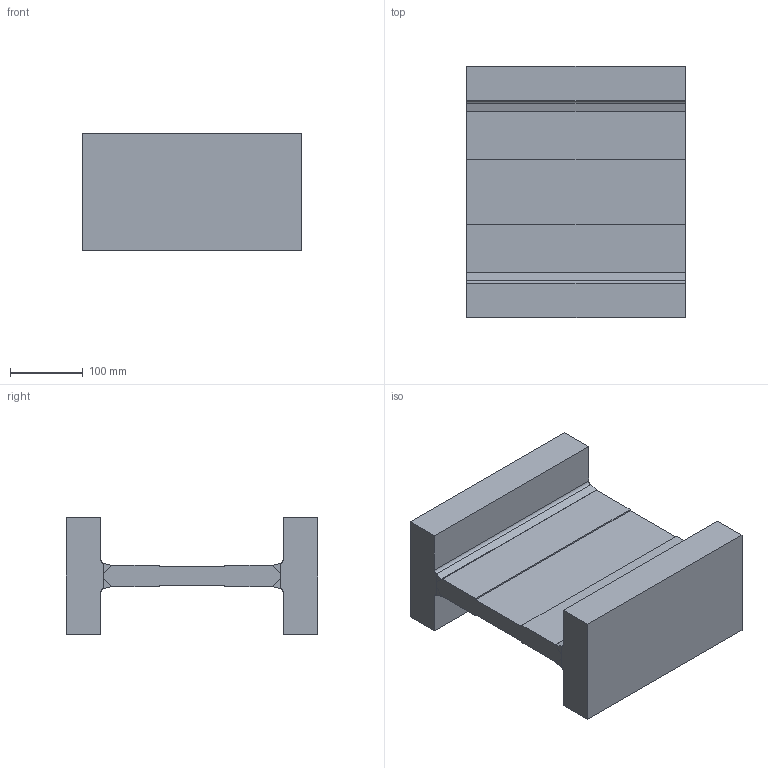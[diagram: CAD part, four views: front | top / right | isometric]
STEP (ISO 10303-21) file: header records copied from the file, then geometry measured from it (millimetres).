
FILE_DESCRIPTION((''),'2;1');
FILE_NAME('Z:\Kataloge\Katalog 109\Inventor-Dateien\Mammutrollen+MPI+MPU-Profile\ALFATEC_MPI_250_0816.stp','2009-11-09T15:59:59',('Kircher'),(''),'Autodesk Inventor 2010','Autodesk Inventor 2010','');
FILE_SCHEMA(('CONFIG_CONTROL_DESIGN'));
Length unit declared in the file: millimetre
Products named in the file (4): ALFATEC_MPI_250_0816; ALFATEC_MPI_250_0816-Teil 1; ALFATEC_MPI_250_0816-Teil 2; ALFATEC_MPI_250_0816-Teil 3
Assembly tree (3 placements, depth 2):
  ALFATEC_MPI_250_0816
    ALFATEC_MPI_250_0816-Teil 1
    ALFATEC_MPI_250_0816-Teil 2
    ALFATEC_MPI_250_0816-Teil 3
Bounding box: 300 x 345 x 160 mm (x, y, z)
Volume: 6650572.6 mm3; surface area: 502483.5 mm2
Topology: 7 solids, 7 shells, 62 faces, 144 edges, 96 vertices
Faces by surface type: plane 58, cylinder 4
Entity records: 1856 total; most frequent: CARTESIAN_POINT 309, DIRECTION 290, ORIENTED_EDGE 288, EDGE_CURVE 144, VECTOR 136, LINE 136, VERTEX_POINT 96, AXIS2_PLACEMENT_3D 77
